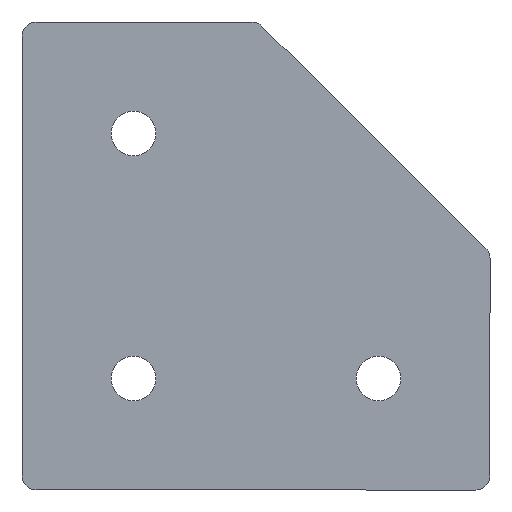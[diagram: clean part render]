
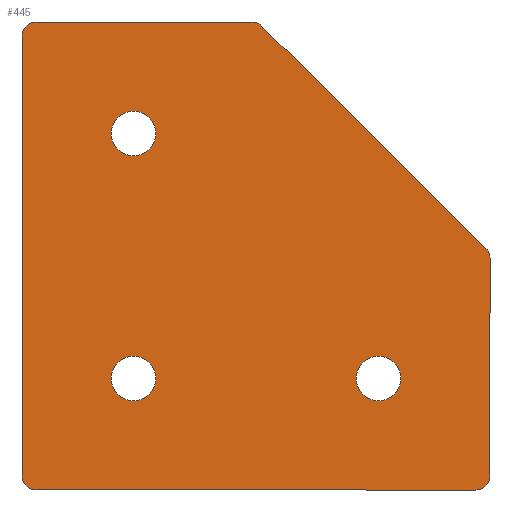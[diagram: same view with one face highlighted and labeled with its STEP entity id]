
A CAD part, front view. The second image highlights one B-rep face of the part: STEP entity #445.
In plain terms, the highlighted planar face has unit normal (0, -1, 0).
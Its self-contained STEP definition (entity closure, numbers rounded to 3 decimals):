
#8 = LINE ( 'NONE', #244, #539 ) ;
#9 = CARTESIAN_POINT ( 'NONE',  ( -1.944, 0., -20.089 ) ) ;
#12 = VERTEX_POINT ( 'NONE', #126 ) ;
#22 = CARTESIAN_POINT ( 'NONE',  ( 15.956, 0., -40.589 ) ) ;
#24 = VERTEX_POINT ( 'NONE', #534 ) ;
#31 = CARTESIAN_POINT ( 'NONE',  ( -46.944, 0., 20.811 ) ) ;
#38 = VERTEX_POINT ( 'NONE', #447 ) ;
#40 = EDGE_CURVE ( 'NONE', #24, #89, #514, .T. ) ;
#41 = ORIENTED_EDGE ( 'NONE', *, *, #519, .F. ) ;
#44 = DIRECTION ( 'NONE',  ( 0.71, 0., -0.704 ) ) ;
#46 = DIRECTION ( 'NONE',  ( 0., 1., 0. ) ) ;
#47 = EDGE_LOOP ( 'NONE', ( #381, #146, #140, #653, #41, #292, #597, #610, #151, #91 ) ) ;
#51 = EDGE_CURVE ( 'NONE', #640, #272, #636, .T. ) ;
#54 = CARTESIAN_POINT ( 'NONE',  ( -25.187, 0., 42.811 ) ) ;
#62 = EDGE_CURVE ( 'NONE', #119, #667, #87, .T. ) ;
#69 = CARTESIAN_POINT ( 'NONE',  ( 17.787, 0., 3.857 ) ) ;
#77 = CARTESIAN_POINT ( 'NONE',  ( -46.944, 0., 24.911 ) ) ;
#79 = EDGE_CURVE ( 'NONE', #189, #173, #329, .T. ) ;
#80 = DIRECTION ( 'NONE',  ( -1., 0., 0. ) ) ;
#83 = CARTESIAN_POINT ( 'NONE',  ( -67.444, 0., -37.989 ) ) ;
#87 = CIRCLE ( 'NONE', #602, 2.6 ) ;
#89 = VERTEX_POINT ( 'NONE', #31 ) ;
#91 = ORIENTED_EDGE ( 'NONE', *, *, #166, .F. ) ;
#98 = EDGE_CURVE ( 'NONE', #173, #189, #469, .T. ) ;
#101 = EDGE_CURVE ( 'NONE', #253, #280, #459, .T. ) ;
#103 = DIRECTION ( 'NONE',  ( 0., 0., -1. ) ) ;
#107 = EDGE_CURVE ( 'NONE', #38, #586, #319, .T. ) ;
#109 = FACE_BOUND ( 'NONE', #296, .T. ) ;
#118 = CARTESIAN_POINT ( 'NONE',  ( -46.944, 0., -20.089 ) ) ;
#119 = VERTEX_POINT ( 'NONE', #69 ) ;
#126 = CARTESIAN_POINT ( 'NONE',  ( -64.844, 0., 45.411 ) ) ;
#135 = CARTESIAN_POINT ( 'NONE',  ( 18.556, 0., -37.989 ) ) ;
#140 = ORIENTED_EDGE ( 'NONE', *, *, #429, .F. ) ;
#144 = CIRCLE ( 'NONE', #466, 2.6 ) ;
#146 = ORIENTED_EDGE ( 'NONE', *, *, #390, .F. ) ;
#149 = DIRECTION ( 'NONE',  ( 0., 1., 0. ) ) ;
#151 = ORIENTED_EDGE ( 'NONE', *, *, #62, .F. ) ;
#155 = DIRECTION ( 'NONE',  ( 0., 0., -1. ) ) ;
#166 = EDGE_CURVE ( 'NONE', #586, #119, #403, .T. ) ;
#170 = DIRECTION ( 'NONE',  ( 0., 1., 0. ) ) ;
#173 = VERTEX_POINT ( 'NONE', #250 ) ;
#174 = DIRECTION ( 'NONE',  ( 0., 0., 1. ) ) ;
#178 = CARTESIAN_POINT ( 'NONE',  ( -67.444, 0., 42.811 ) ) ;
#189 = VERTEX_POINT ( 'NONE', #387 ) ;
#194 = EDGE_CURVE ( 'NONE', #280, #398, #386, .T. ) ;
#201 = AXIS2_PLACEMENT_3D ( 'NONE', #579, #523, #476 ) ;
#204 = AXIS2_PLACEMENT_3D ( 'NONE', #432, #303, #540 ) ;
#205 = DIRECTION ( 'NONE',  ( 0., -1., 0. ) ) ;
#229 = DIRECTION ( 'NONE',  ( 0., 0., 1. ) ) ;
#233 = CARTESIAN_POINT ( 'NONE',  ( -23.356, 0., 44.657 ) ) ;
#243 = ORIENTED_EDGE ( 'NONE', *, *, #314, .T. ) ;
#244 = CARTESIAN_POINT ( 'NONE',  ( -25.187, 0., 45.411 ) ) ;
#250 = CARTESIAN_POINT ( 'NONE',  ( -1.944, 0., -24.189 ) ) ;
#252 = FACE_BOUND ( 'NONE', #256, .T. ) ;
#253 = VERTEX_POINT ( 'NONE', #317 ) ;
#254 = CARTESIAN_POINT ( 'NONE',  ( 15.956, 0., -40.589 ) ) ;
#256 = EDGE_LOOP ( 'NONE', ( #243, #266 ) ) ;
#259 = CARTESIAN_POINT ( 'NONE',  ( 15.956, 0., -37.989 ) ) ;
#262 = DIRECTION ( 'NONE',  ( 0., 1., 0. ) ) ;
#266 = ORIENTED_EDGE ( 'NONE', *, *, #335, .T. ) ;
#269 = AXIS2_PLACEMENT_3D ( 'NONE', #54, #205, #570 ) ;
#272 = VERTEX_POINT ( 'NONE', #438 ) ;
#273 = LINE ( 'NONE', #135, #551 ) ;
#280 = VERTEX_POINT ( 'NONE', #22 ) ;
#288 = DIRECTION ( 'NONE',  ( 0., 1., 0. ) ) ;
#292 = ORIENTED_EDGE ( 'NONE', *, *, #194, .F. ) ;
#296 = EDGE_LOOP ( 'NONE', ( #569, #506 ) ) ;
#301 = CARTESIAN_POINT ( 'NONE',  ( -64.844, 0., -40.589 ) ) ;
#303 = DIRECTION ( 'NONE',  ( 0., 1., 0. ) ) ;
#313 = DIRECTION ( 'NONE',  ( 0., 1., 0. ) ) ;
#314 = EDGE_CURVE ( 'NONE', #474, #571, #628, .T. ) ;
#317 = CARTESIAN_POINT ( 'NONE',  ( 18.556, 0., -37.989 ) ) ;
#319 = CIRCLE ( 'NONE', #460, 2.6 ) ;
#329 = CIRCLE ( 'NONE', #516, 4.1 ) ;
#335 = EDGE_CURVE ( 'NONE', #571, #474, #578, .T. ) ;
#353 = CARTESIAN_POINT ( 'NONE',  ( -64.844, 0., 42.811 ) ) ;
#358 = DIRECTION ( 'NONE',  ( 0., 0., 1. ) ) ;
#364 = EDGE_LOOP ( 'NONE', ( #401, #370 ) ) ;
#370 = ORIENTED_EDGE ( 'NONE', *, *, #79, .T. ) ;
#381 = ORIENTED_EDGE ( 'NONE', *, *, #107, .F. ) ;
#386 = LINE ( 'NONE', #254, #644 ) ;
#387 = CARTESIAN_POINT ( 'NONE',  ( -1.944, 0., -15.989 ) ) ;
#390 = EDGE_CURVE ( 'NONE', #12, #38, #8, .T. ) ;
#395 = CARTESIAN_POINT ( 'NONE',  ( 18.556, 0., 2.011 ) ) ;
#398 = VERTEX_POINT ( 'NONE', #301 ) ;
#401 = ORIENTED_EDGE ( 'NONE', *, *, #98, .T. ) ;
#403 = LINE ( 'NONE', #605, #536 ) ;
#413 = AXIS2_PLACEMENT_3D ( 'NONE', #467, #149, #513 ) ;
#429 = EDGE_CURVE ( 'NONE', #272, #12, #144, .T. ) ;
#431 = EDGE_CURVE ( 'NONE', #89, #24, #662, .T. ) ;
#432 = CARTESIAN_POINT ( 'NONE',  ( -64.844, 0., -37.989 ) ) ;
#438 = CARTESIAN_POINT ( 'NONE',  ( -67.444, 0., 42.811 ) ) ;
#445 = ADVANCED_FACE ( 'NONE', ( #109, #645, #252, #510 ), #658, .T. ) ;
#447 = CARTESIAN_POINT ( 'NONE',  ( -25.187, 0., 45.411 ) ) ;
#459 = CIRCLE ( 'NONE', #493, 2.6 ) ;
#460 = AXIS2_PLACEMENT_3D ( 'NONE', #517, #621, #155 ) ;
#466 = AXIS2_PLACEMENT_3D ( 'NONE', #353, #46, #358 ) ;
#467 = CARTESIAN_POINT ( 'NONE',  ( -46.944, 0., 24.911 ) ) ;
#469 = CIRCLE ( 'NONE', #201, 4.1 ) ;
#472 = DIRECTION ( 'NONE',  ( 0., 0., 1. ) ) ;
#474 = VERTEX_POINT ( 'NONE', #515 ) ;
#476 = DIRECTION ( 'NONE',  ( 0., 0., 1. ) ) ;
#481 = CARTESIAN_POINT ( 'NONE',  ( -46.944, 0., -20.089 ) ) ;
#482 = DIRECTION ( 'NONE',  ( 0., 1., 0. ) ) ;
#490 = CARTESIAN_POINT ( 'NONE',  ( 15.956, 0., 2.011 ) ) ;
#491 = DIRECTION ( 'NONE',  ( 0., 0., 1. ) ) ;
#493 = AXIS2_PLACEMENT_3D ( 'NONE', #259, #313, #103 ) ;
#499 = DIRECTION ( 'NONE',  ( 0., 0., -1. ) ) ;
#503 = VECTOR ( 'NONE', #538, 1000. ) ;
#506 = ORIENTED_EDGE ( 'NONE', *, *, #40, .T. ) ;
#510 = FACE_BOUND ( 'NONE', #364, .T. ) ;
#513 = DIRECTION ( 'NONE',  ( 0., 0., 1. ) ) ;
#514 = CIRCLE ( 'NONE', #525, 4.1 ) ;
#515 = CARTESIAN_POINT ( 'NONE',  ( -46.944, 0., -24.189 ) ) ;
#516 = AXIS2_PLACEMENT_3D ( 'NONE', #9, #262, #472 ) ;
#517 = CARTESIAN_POINT ( 'NONE',  ( -25.187, 0., 42.811 ) ) ;
#519 = EDGE_CURVE ( 'NONE', #398, #640, #618, .T. ) ;
#523 = DIRECTION ( 'NONE',  ( 0., 1., 0. ) ) ;
#525 = AXIS2_PLACEMENT_3D ( 'NONE', #77, #288, #491 ) ;
#528 = DIRECTION ( 'NONE',  ( 0., 0., 1. ) ) ;
#534 = CARTESIAN_POINT ( 'NONE',  ( -46.944, 0., 29.011 ) ) ;
#536 = VECTOR ( 'NONE', #44, 1000. ) ;
#537 = DIRECTION ( 'NONE',  ( 0., 1., 0. ) ) ;
#538 = DIRECTION ( 'NONE',  ( 0., 0., 1. ) ) ;
#539 = VECTOR ( 'NONE', #606, 1000. ) ;
#540 = DIRECTION ( 'NONE',  ( 0., 0., -1. ) ) ;
#551 = VECTOR ( 'NONE', #499, 1000. ) ;
#569 = ORIENTED_EDGE ( 'NONE', *, *, #431, .T. ) ;
#570 = DIRECTION ( 'NONE',  ( 0., 0., -1. ) ) ;
#571 = VERTEX_POINT ( 'NONE', #600 ) ;
#578 = CIRCLE ( 'NONE', #660, 4.1 ) ;
#579 = CARTESIAN_POINT ( 'NONE',  ( -1.944, 0., -20.089 ) ) ;
#586 = VERTEX_POINT ( 'NONE', #233 ) ;
#595 = AXIS2_PLACEMENT_3D ( 'NONE', #481, #170, #528 ) ;
#597 = ORIENTED_EDGE ( 'NONE', *, *, #101, .F. ) ;
#600 = CARTESIAN_POINT ( 'NONE',  ( -46.944, 0., -15.989 ) ) ;
#602 = AXIS2_PLACEMENT_3D ( 'NONE', #490, #537, #229 ) ;
#603 = EDGE_CURVE ( 'NONE', #667, #253, #273, .T. ) ;
#605 = CARTESIAN_POINT ( 'NONE',  ( 17.787, 0., 3.857 ) ) ;
#606 = DIRECTION ( 'NONE',  ( 1., 0., 0. ) ) ;
#610 = ORIENTED_EDGE ( 'NONE', *, *, #603, .F. ) ;
#618 = CIRCLE ( 'NONE', #204, 2.6 ) ;
#621 = DIRECTION ( 'NONE',  ( 0., 1., 0. ) ) ;
#628 = CIRCLE ( 'NONE', #595, 4.1 ) ;
#636 = LINE ( 'NONE', #178, #503 ) ;
#640 = VERTEX_POINT ( 'NONE', #83 ) ;
#644 = VECTOR ( 'NONE', #80, 1000. ) ;
#645 = FACE_OUTER_BOUND ( 'NONE', #47, .T. ) ;
#653 = ORIENTED_EDGE ( 'NONE', *, *, #51, .F. ) ;
#658 = PLANE ( 'NONE',  #269 ) ;
#660 = AXIS2_PLACEMENT_3D ( 'NONE', #118, #482, #174 ) ;
#662 = CIRCLE ( 'NONE', #413, 4.1 ) ;
#667 = VERTEX_POINT ( 'NONE', #395 ) ;
